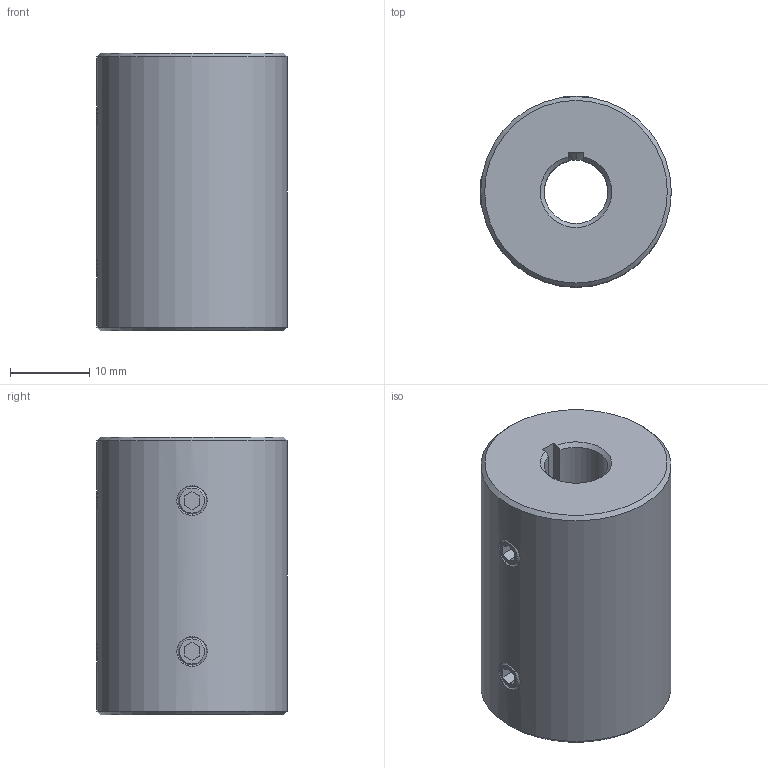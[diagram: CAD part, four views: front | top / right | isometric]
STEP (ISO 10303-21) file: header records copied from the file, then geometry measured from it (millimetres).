
FILE_DESCRIPTION (( 'STEP AP214' ), '1' );
FILE_NAME ('KBST1-VA-N8.STEP', '2025-07-29T07:15:10', ( '' ), ( '' ), 'SwSTEP 2.0', 'SolidWorks 2024', '' );
FILE_SCHEMA (( 'AUTOMOTIVE_DESIGN' ));
Length unit declared in the file: millimetre
Products named in the file (1): KBST1-VA-N8
Bounding box: 24 x 24 x 35 mm (x, y, z)
Volume: 14174.5 mm3; surface area: 5152.2 mm2
Topology: 5 solids, 5 shells, 89 faces, 213 edges, 128 vertices
Faces by surface type: plane 43, cone 28, cylinder 14, bspline 4
Full cylindrical faces by diameter (mm): 3.3 x4, 24 x1
Entity records: 7622 total; most frequent: CARTESIAN_POINT 4618, DIRECTION 390, ORIENTED_EDGE 384, EDGE_CURVE 192, VECTOR 130, AXIS2_PLACEMENT_3D 130, LINE 130, VERTEX_POINT 126
